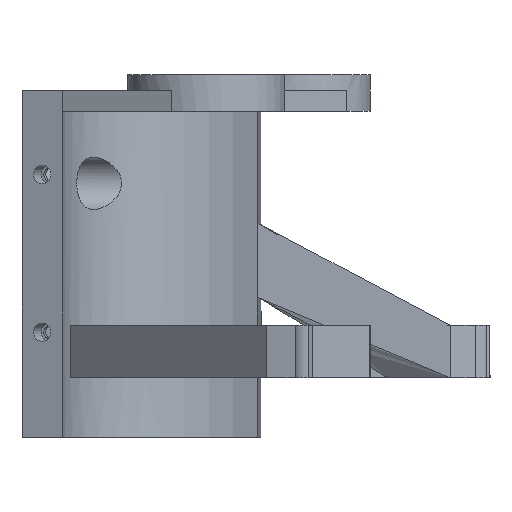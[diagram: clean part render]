
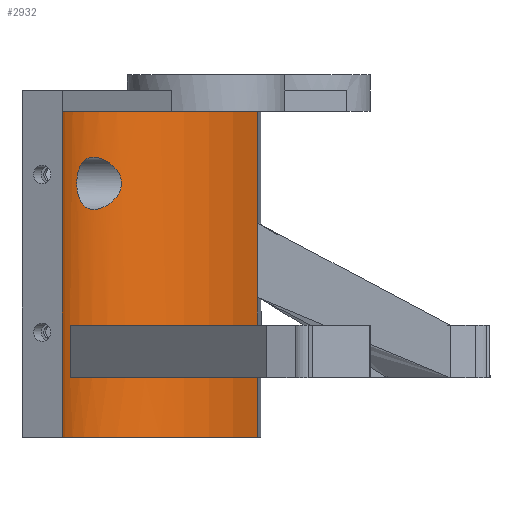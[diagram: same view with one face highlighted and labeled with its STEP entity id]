
A CAD part, front view. The second image highlights one B-rep face of the part: STEP entity #2932.
In plain terms, the highlighted cylindrical face has radius 27.5 mm (diameter 55 mm), a partial arc.
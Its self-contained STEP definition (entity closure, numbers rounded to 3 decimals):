
#27=B_SPLINE_CURVE_WITH_KNOTS('',3,(#4265,#4266,#4267,#4268,#4269,#4270,
#4271,#4272,#4273,#4274,#4275,#4276,#4277,#4278,#4279,#4280,#4281,#4282,
#4283,#4284),.UNSPECIFIED.,.F.,.F.,(4,2,2,2,2,2,2,2,2,4),(0.,0.185,
0.371,0.601,0.832,1.103,
1.373,1.567,1.664,1.761),
 .UNSPECIFIED.);
#28=B_SPLINE_CURVE_WITH_KNOTS('',3,(#4285,#4286,#4287,#4288,#4289,#4290,
#4291,#4292,#4293,#4294,#4295,#4296,#4297,#4298,#4299,#4300,#4301,#4302,
#4303,#4304),.UNSPECIFIED.,.F.,.F.,(4,2,2,2,2,2,2,2,2,4),(1.761,
1.857,1.954,2.148,2.418,2.689,
2.92,3.151,3.336,3.521),
 .UNSPECIFIED.);
#251=LINE('',#5033,#514);
#252=LINE('',#5034,#515);
#253=LINE('',#5037,#516);
#254=LINE('',#5041,#517);
#514=VECTOR('',#3938,10.);
#515=VECTOR('',#3939,10.);
#516=VECTOR('',#3940,10.);
#517=VECTOR('',#3943,10.);
#624=CYLINDRICAL_SURFACE('',#3213,27.5);
#688=FACE_BOUND('',#1060,.T.);
#689=FACE_BOUND('',#1061,.T.);
#840=FACE_OUTER_BOUND('',#1059,.T.);
#1059=EDGE_LOOP('',(#2527,#2528,#2529,#2530));
#1060=EDGE_LOOP('',(#2531,#2532));
#1061=EDGE_LOOP('',(#2533,#2534,#2535,#2536));
#1161=CIRCLE('',#3075,27.5);
#1220=CIRCLE('',#3214,27.5);
#1221=CIRCLE('',#3215,27.5);
#1222=CIRCLE('',#3216,27.5);
#1269=VERTEX_POINT('',#4263);
#1270=VERTEX_POINT('',#4264);
#1303=VERTEX_POINT('',#4441);
#1308=VERTEX_POINT('',#4450);
#1455=VERTEX_POINT('',#5030);
#1456=VERTEX_POINT('',#5031);
#1457=VERTEX_POINT('',#5035);
#1458=VERTEX_POINT('',#5036);
#1459=VERTEX_POINT('',#5038);
#1460=VERTEX_POINT('',#5040);
#1546=EDGE_CURVE('',#1269,#1270,#27,.T.);
#1547=EDGE_CURVE('',#1270,#1269,#28,.T.);
#1598=EDGE_CURVE('',#1308,#1303,#1161,.T.);
#1828=EDGE_CURVE('',#1455,#1456,#1220,.T.);
#1829=EDGE_CURVE('',#1455,#1303,#251,.T.);
#1830=EDGE_CURVE('',#1456,#1308,#252,.T.);
#1831=EDGE_CURVE('',#1457,#1458,#253,.T.);
#1832=EDGE_CURVE('',#1459,#1457,#1221,.T.);
#1833=EDGE_CURVE('',#1460,#1459,#254,.T.);
#1834=EDGE_CURVE('',#1458,#1460,#1222,.T.);
#2527=ORIENTED_EDGE('',*,*,#1828,.F.);
#2528=ORIENTED_EDGE('',*,*,#1829,.T.);
#2529=ORIENTED_EDGE('',*,*,#1598,.F.);
#2530=ORIENTED_EDGE('',*,*,#1830,.F.);
#2531=ORIENTED_EDGE('',*,*,#1546,.T.);
#2532=ORIENTED_EDGE('',*,*,#1547,.T.);
#2533=ORIENTED_EDGE('',*,*,#1831,.F.);
#2534=ORIENTED_EDGE('',*,*,#1832,.F.);
#2535=ORIENTED_EDGE('',*,*,#1833,.F.);
#2536=ORIENTED_EDGE('',*,*,#1834,.F.);
#2932=ADVANCED_FACE('',(#840,#688,#689),#624,.F.);
#3075=AXIS2_PLACEMENT_3D('',#4452,#3493,#3494);
#3213=AXIS2_PLACEMENT_3D('',#5029,#3934,#3935);
#3214=AXIS2_PLACEMENT_3D('',#5032,#3936,#3937);
#3215=AXIS2_PLACEMENT_3D('',#5039,#3941,#3942);
#3216=AXIS2_PLACEMENT_3D('',#5042,#3944,#3945);
#3493=DIRECTION('center_axis',(0.,0.,-1.));
#3494=DIRECTION('ref_axis',(-1.,0.,0.));
#3934=DIRECTION('center_axis',(0.,0.,1.));
#3935=DIRECTION('ref_axis',(-1.,0.,0.));
#3936=DIRECTION('center_axis',(0.,0.,1.));
#3937=DIRECTION('ref_axis',(-1.,0.,0.));
#3938=DIRECTION('',(0.,0.,1.));
#3939=DIRECTION('',(0.,0.,1.));
#3940=DIRECTION('',(0.,0.,1.));
#3941=DIRECTION('center_axis',(0.,0.,
-1.));
#3942=DIRECTION('ref_axis',(-1.,0.,0.));
#3943=DIRECTION('',(0.,0.,-1.));
#3944=DIRECTION('center_axis',(0.,0.,
1.));
#3945=DIRECTION('ref_axis',(-1.,0.,0.));
#4263=CARTESIAN_POINT('',(-143.603,-91.4,42.322));
#4264=CARTESIAN_POINT('',(-135.08,-81.4,42.322));
#4265=CARTESIAN_POINT('Ctrl Pts',(-143.603,-91.4,42.322));
#4266=CARTESIAN_POINT('Ctrl Pts',(-143.603,-91.4,42.94));
#4267=CARTESIAN_POINT('Ctrl Pts',(-143.543,-91.278,43.594));
#4268=CARTESIAN_POINT('Ctrl Pts',(-143.294,-90.799,44.784));
#4269=CARTESIAN_POINT('Ctrl Pts',(-143.104,-90.442,45.32));
#4270=CARTESIAN_POINT('Ctrl Pts',(-142.598,-89.56,46.263));
#4271=CARTESIAN_POINT('Ctrl Pts',(-142.226,-88.948,46.68));
#4272=CARTESIAN_POINT('Ctrl Pts',(-141.358,-87.666,47.209));
#4273=CARTESIAN_POINT('Ctrl Pts',(-140.862,-86.997,47.322));
#4274=CARTESIAN_POINT('Ctrl Pts',(-139.809,-85.699,47.322));
#4275=CARTESIAN_POINT('Ctrl Pts',(-139.162,-84.978,47.169));
#4276=CARTESIAN_POINT('Ctrl Pts',(-137.863,-83.673,46.574));
#4277=CARTESIAN_POINT('Ctrl Pts',(-137.212,-83.088,46.135));
#4278=CARTESIAN_POINT('Ctrl Pts',(-136.257,-82.29,45.215));
#4279=CARTESIAN_POINT('Ctrl Pts',(-135.854,-81.974,44.727));
#4280=CARTESIAN_POINT('Ctrl Pts',(-135.411,-81.641,43.885));
#4281=CARTESIAN_POINT('Ctrl Pts',(-135.289,-81.552,43.587));
#4282=CARTESIAN_POINT('Ctrl Pts',(-135.124,-81.431,42.966));
#4283=CARTESIAN_POINT('Ctrl Pts',(-135.08,-81.4,42.645));
#4284=CARTESIAN_POINT('Ctrl Pts',(-135.08,-81.4,42.322));
#4285=CARTESIAN_POINT('Ctrl Pts',(-135.08,-81.4,42.322));
#4286=CARTESIAN_POINT('Ctrl Pts',(-135.08,-81.4,42.));
#4287=CARTESIAN_POINT('Ctrl Pts',(-135.124,-81.431,41.678));
#4288=CARTESIAN_POINT('Ctrl Pts',(-135.289,-81.552,41.058));
#4289=CARTESIAN_POINT('Ctrl Pts',(-135.411,-81.641,40.759));
#4290=CARTESIAN_POINT('Ctrl Pts',(-135.854,-81.974,39.918));
#4291=CARTESIAN_POINT('Ctrl Pts',(-136.257,-82.29,39.43));
#4292=CARTESIAN_POINT('Ctrl Pts',(-137.212,-83.088,38.51));
#4293=CARTESIAN_POINT('Ctrl Pts',(-137.863,-83.673,38.07));
#4294=CARTESIAN_POINT('Ctrl Pts',(-139.162,-84.978,37.475));
#4295=CARTESIAN_POINT('Ctrl Pts',(-139.809,-85.699,37.322));
#4296=CARTESIAN_POINT('Ctrl Pts',(-140.862,-86.997,37.322));
#4297=CARTESIAN_POINT('Ctrl Pts',(-141.358,-87.666,37.436));
#4298=CARTESIAN_POINT('Ctrl Pts',(-142.226,-88.948,37.965));
#4299=CARTESIAN_POINT('Ctrl Pts',(-142.598,-89.56,38.382));
#4300=CARTESIAN_POINT('Ctrl Pts',(-143.104,-90.442,39.324));
#4301=CARTESIAN_POINT('Ctrl Pts',(-143.294,-90.799,39.861));
#4302=CARTESIAN_POINT('Ctrl Pts',(-143.543,-91.278,41.051));
#4303=CARTESIAN_POINT('Ctrl Pts',(-143.603,-91.4,41.705));
#4304=CARTESIAN_POINT('Ctrl Pts',(-143.603,-91.4,42.322));
#4441=CARTESIAN_POINT('',(-109.284,-78.002,56.));
#4450=CARTESIAN_POINT('',(-146.328,-106.952,56.));
#4452=CARTESIAN_POINT('Origin',(-119.018,-103.722,56.));
#5029=CARTESIAN_POINT('Origin',(-119.018,-103.722,-6.));
#5030=CARTESIAN_POINT('',(-109.284,-78.002,-6.));
#5031=CARTESIAN_POINT('',(-146.328,-106.952,-6.));
#5032=CARTESIAN_POINT('Origin',(-119.018,-103.722,-6.));
#5033=CARTESIAN_POINT('',(-109.284,-78.002,-6.));
#5034=CARTESIAN_POINT('',(-146.328,-106.952,-6.));
#5035=CARTESIAN_POINT('',(-126.601,-77.288,5.3));
#5036=CARTESIAN_POINT('',(-126.601,-77.288,15.3));
#5037=CARTESIAN_POINT('',(-126.601,-77.288,-6.));
#5038=CARTESIAN_POINT('',(-144.873,-94.351,5.3));
#5039=CARTESIAN_POINT('Origin',(-119.018,-103.722,5.3));
#5040=CARTESIAN_POINT('',(-144.873,-94.351,15.3));
#5041=CARTESIAN_POINT('',(-144.873,-94.351,-6.));
#5042=CARTESIAN_POINT('Origin',(-119.018,-103.722,15.3));
